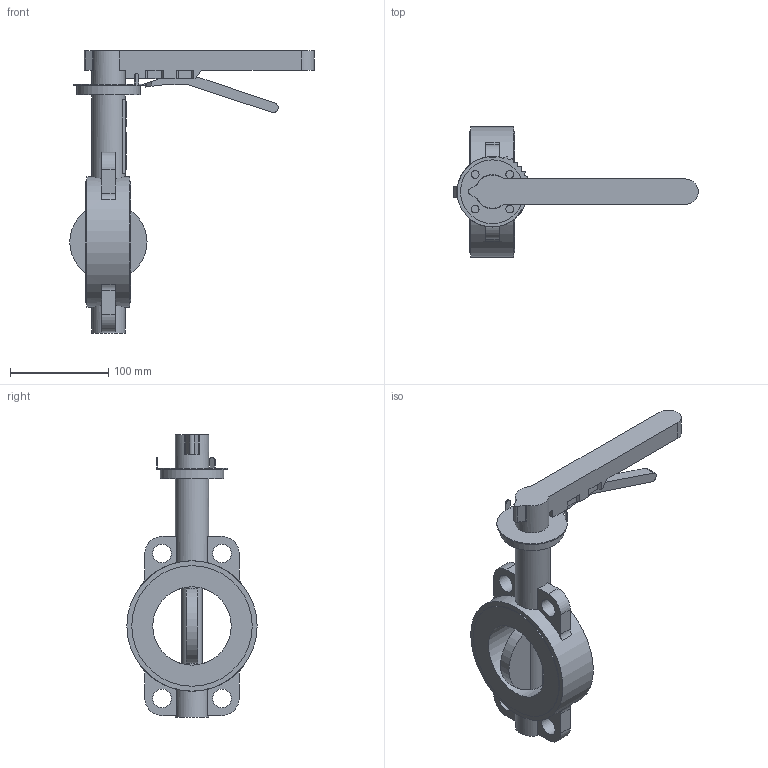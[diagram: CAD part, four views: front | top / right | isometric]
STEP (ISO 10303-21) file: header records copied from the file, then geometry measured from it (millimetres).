
FILE_DESCRIPTION(('STEP AP203'), '1');
FILE_NAME('Çàòâîð 017W.ZS DN80 PN10_16 ðóêîÿòêà', '', ('UNSPECIFIED'), ('UNSPECIFIED'), 'ASCON STEP Converter 1.6', 'ASCON Math Kernel', '');
FILE_SCHEMA(('CONFIG_CONTROL_DESIGN'));
Length unit declared in the file: millimetre
Bounding box: 249.4 x 133 x 288 mm (x, y, z)
Volume: 164924.6 mm3; surface area: 129456.7 mm2
Topology: 1 solids, 2 shells, 741 faces, 2177 edges, 1406 vertices
Faces by surface type: cylinder 506, plane 235
Full cylindrical faces by diameter (mm): 8 x4, 12.6 x1, 19 x4, 21 x1, 34 x3, 35 x1, 65 x1, 80 x1, 123 x2, 133 x1
Entity records: 31882 total; most frequent: CARTESIAN_POINT 5259, DIRECTION 4690, ORIENTED_EDGE 4255, EDGE_CURVE 2159, AXIS2_PLACEMENT_3D 1812, VERTEX_POINT 1406, CIRCLE 1070, LINE 1066
